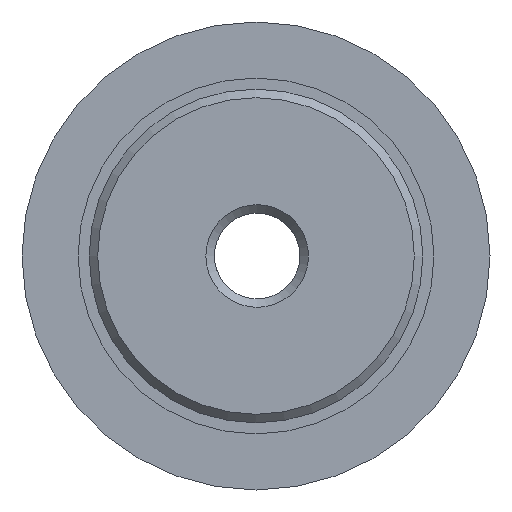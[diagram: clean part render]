
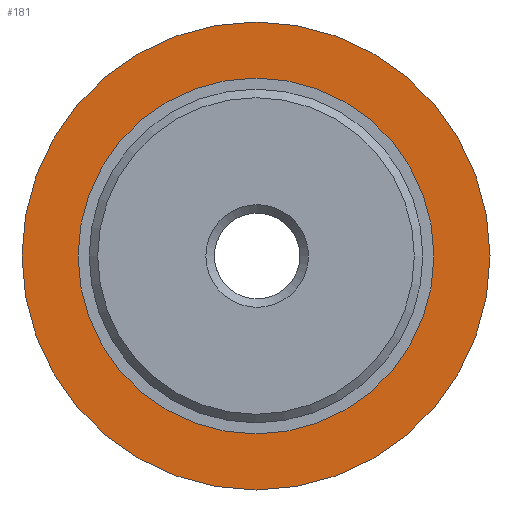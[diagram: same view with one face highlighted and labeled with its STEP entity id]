
A CAD part, left-side view. The second image highlights one B-rep face of the part: STEP entity #181.
In plain terms, the highlighted planar face has unit normal (-1, 0, 0).
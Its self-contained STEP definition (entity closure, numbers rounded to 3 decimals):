
#181 = ADVANCED_FACE ( 'NONE', ( #601, #619 ), #1218, .F. ) ;
#193 = EDGE_CURVE ( 'NONE', #686, #686, #641, .T. ) ;
#236 = ORIENTED_EDGE ( 'NONE', *, *, #193, .F. ) ;
#253 = ORIENTED_EDGE ( 'NONE', *, *, #1470, .T. ) ;
#284 = AXIS2_PLACEMENT_3D ( 'NONE', #1262, #1263, #1264 ) ;
#296 = AXIS2_PLACEMENT_3D ( 'NONE', #1430, #1431, #1432 ) ;
#601 = FACE_OUTER_BOUND ( 'NONE', #966, .T. ) ;
#619 = FACE_BOUND ( 'NONE', #989, .T. ) ;
#641 = CIRCLE ( 'NONE', #284, 27.35 ) ;
#667 = CIRCLE ( 'NONE', #296, 20.8 ) ;
#686 = VERTEX_POINT ( 'NONE', #1092 ) ;
#933 = AXIS2_PLACEMENT_3D ( 'NONE', #1216, #1220, #1221 ) ;
#966 = EDGE_LOOP ( 'NONE', ( #236 ) ) ;
#989 = EDGE_LOOP ( 'NONE', ( #253 ) ) ;
#1092 = CARTESIAN_POINT ( 'NONE',  ( -9.08, 0.138, -27.35 ) ) ;
#1101 = CARTESIAN_POINT ( 'NONE',  ( -9.08, 0.138, -20.8 ) ) ;
#1129 = VERTEX_POINT ( 'NONE', #1101 ) ;
#1216 = CARTESIAN_POINT ( 'NONE',  ( -9.08, 0.138, 0. ) ) ;
#1218 = PLANE ( 'NONE',  #933 ) ;
#1220 = DIRECTION ( 'NONE',  ( 1., 0., 0. ) ) ;
#1221 = DIRECTION ( 'NONE',  ( 0., 0., -1. ) ) ;
#1262 = CARTESIAN_POINT ( 'NONE',  ( -9.08, 0.138, 0. ) ) ;
#1263 = DIRECTION ( 'NONE',  ( 1., 0., 0. ) ) ;
#1264 = DIRECTION ( 'NONE',  ( 0., 0., -1. ) ) ;
#1430 = CARTESIAN_POINT ( 'NONE',  ( -9.08, 0.138, 0. ) ) ;
#1431 = DIRECTION ( 'NONE',  ( 1., 0., 0. ) ) ;
#1432 = DIRECTION ( 'NONE',  ( 0., 0., -1. ) ) ;
#1470 = EDGE_CURVE ( 'NONE', #1129, #1129, #667, .T. ) ;
